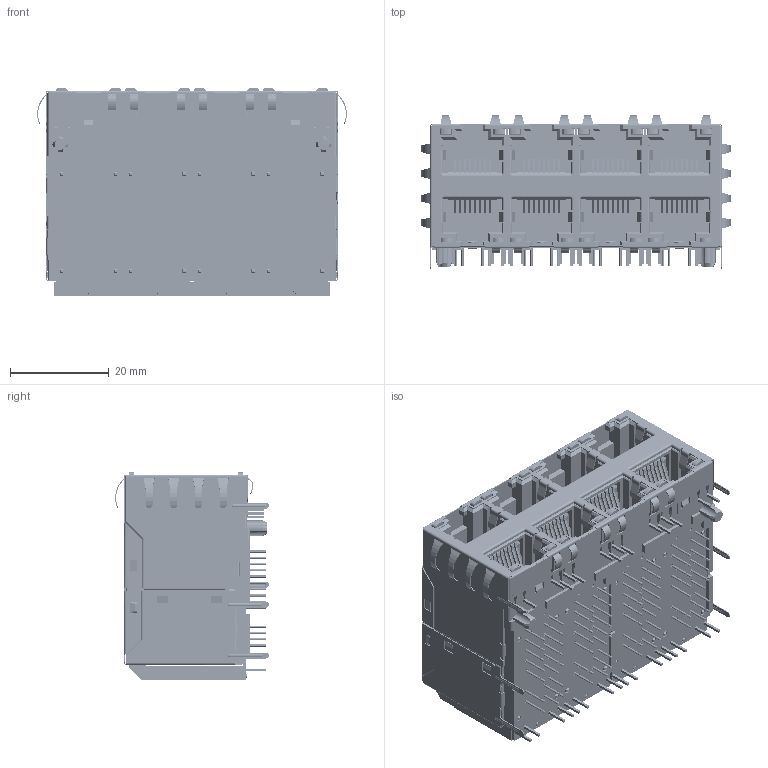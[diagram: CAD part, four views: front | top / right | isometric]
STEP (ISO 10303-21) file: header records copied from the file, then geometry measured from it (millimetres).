
FILE_DESCRIPTION((''),'2;1');
FILE_NAME('DGKYD24Q632DB2A2DPB057_','2025-06-26T08:24:44',('DGKYD'),(''),'CREO PARAMETRIC BY PTC INC, 2019010','CREO PARAMETRIC BY PTC INC, 2019010','');
FILE_SCHEMA(('CONFIG_CONTROL_DESIGN'));
Products named in the file (1): DGKYD24Q632DB2A2DPB057_
Bounding box: 62.73 x 31.13 x 42.2 mm (x, y, z)
Volume: 18510.3 mm3; surface area: 47845.2 mm2
Topology: 1 solids, 1 shells, 7445 faces, 21488 edges, 14030 vertices
Faces by surface type: plane 5304, cylinder 1842, bspline 195, torus 48, sphere 48, cone 8
Entity records: 251711 total; most frequent: CARTESIAN_POINT 53585, ORIENTED_EDGE 42936, DIRECTION 39153, EDGE_CURVE 21468, VECTOR 16889, LINE 16889, VERTEX_POINT 14030, AXIS2_PLACEMENT_3D 11132
